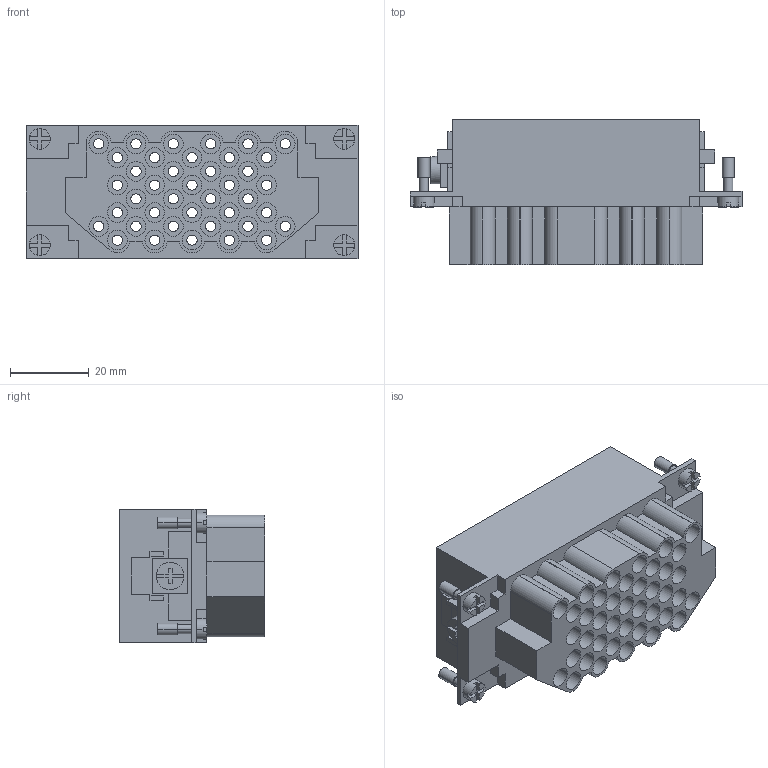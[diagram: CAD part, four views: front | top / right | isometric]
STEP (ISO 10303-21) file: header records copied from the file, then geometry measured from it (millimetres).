
FILE_DESCRIPTION (( 'STEP AP203' ), '1' );
FILE_NAME ('352243.STEP', '2025-06-26T08:58:12', ( '' ), ( '' ), 'SwSTEP 2.0', 'SolidWorks 2018', '' );
FILE_SCHEMA (( 'CONFIG_CONTROL_DESIGN' ));
Length unit declared in the file: millimetre
Products named in the file (1): 352243
Bounding box: 84.5 x 37 x 34 mm (x, y, z)
Volume: 47873.1 mm3; surface area: 35903.7 mm2
Topology: 1 solids, 1 shells, 664 faces, 1578 edges, 1052 vertices
Faces by surface type: cylinder 368, plane 296
Entity records: 19751 total; most frequent: DIRECTION 3680, CARTESIAN_POINT 3295, ORIENTED_EDGE 3156, EDGE_CURVE 1578, AXIS2_PLACEMENT_3D 1437, VERTEX_POINT 1052, EDGE_LOOP 880, VECTOR 806
